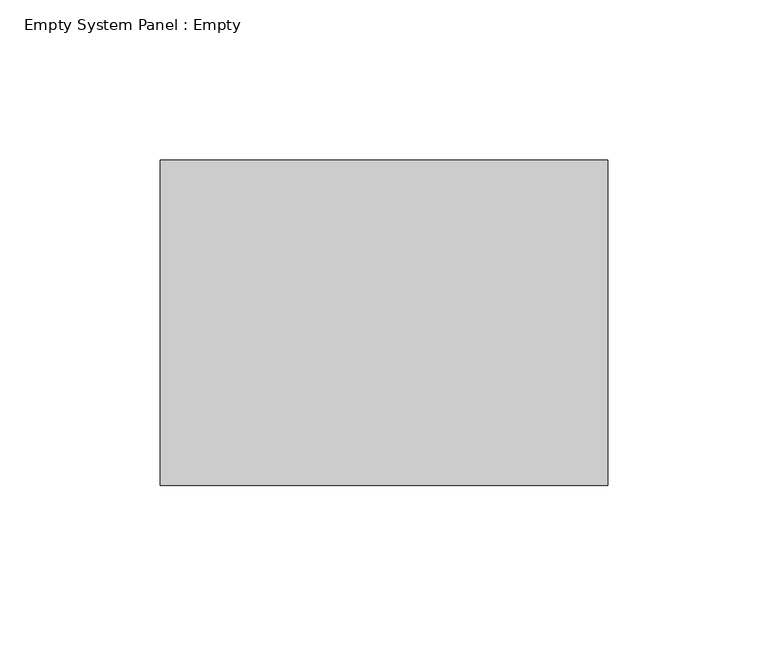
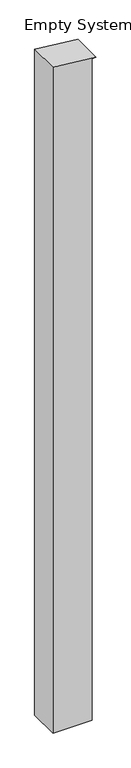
"""IFC4 building model written with IfcOpenShell, lengths in millimetres: plate geometry, Empty System Panel : Empty."""

import ifcopenshell
import ifcopenshell.guid

model = None  # the IFC model being written
_history = None  # IfcOwnerHistory: only IFC2X3 demands one
_inside = {}  # id of a spatial element -> (the spatial element, [elements in it])
_under = {}  # id of a project, library or spatial element -> (it, [spatial elements below it])
_declared = {}  # id of a project -> (the project, [libraries it declares])
_typed = {}  # id of a type object -> (the type object, [elements of that type])
_made_of = {}  # id of a material, layer set ... -> (it, [elements and type objects made of it])


def new_model(schema):
    """Start an empty IFC model of exactly this schema.

    Asked for "IFC4X3", IfcOpenShell would pick the latest addendum, in which some entities
    have other attributes; the version numbers below select the first issue.
    IFC2X3 requires an IfcOwnerHistory on every rooted entity: one is made here for all.
    """
    global model, _history
    if schema == "IFC4X3":
        model = ifcopenshell.file(schema_version=(4, 3, 0, 0))
    else:
        model = ifcopenshell.file(schema=schema)
    _inside.clear()
    _under.clear()
    _declared.clear()
    _typed.clear()
    _made_of.clear()
    _history = None
    if model.schema == "IFC2X3":
        org = make("IfcOrganization", Name="unknown")
        user = make(
            "IfcPersonAndOrganization",
            ThePerson=make("IfcPerson", FamilyName="unknown"),
            TheOrganization=org,
        )
        app = make(
            "IfcApplication",
            ApplicationDeveloper=org,
            Version="unknown",
            ApplicationFullName="unknown",
            ApplicationIdentifier="unknown",
        )
        _history = make(
            "IfcOwnerHistory",
            OwningUser=user,
            OwningApplication=app,
            ChangeAction="ADDED",
            CreationDate=0,
        )
    return model


def make(cls, **values):
    """One entity of the class cls with the attributes given. An attribute that is None is left unset."""
    return model.create_entity(
        cls, **{name: value for name, value in values.items() if value is not None}
    )


def rooted(cls, **values):
    """An entity with a GlobalId (a new one), such as an element, a storey or a relation."""
    return make(cls, GlobalId=ifcopenshell.guid.new(), OwnerHistory=_history, **values)


def si_unit(unit_type, name, prefix=None):
    """IfcSIUnit, for example si_unit("LENGTHUNIT", "METRE", prefix="MILLI")."""
    return make("IfcSIUnit", UnitType=unit_type, Prefix=prefix, Name=name)


def assignment(units):
    """IfcUnitAssignment: the units of a project."""
    return None if units is None else make("IfcUnitAssignment", Units=units)


def point(xyz):
    """IfcCartesianPoint."""
    return None if xyz is None else make("IfcCartesianPoint", Coordinates=xyz)


def direction(xyz):
    """IfcDirection."""
    return None if xyz is None else make("IfcDirection", DirectionRatios=xyz)


def frame(location, z_axis=None, x_axis=None):
    """IfcAxis2Placement3D, a coordinate frame: its origin and axes. An axis left out is left unset."""
    return make(
        "IfcAxis2Placement3D",
        Location=point(location),
        Axis=direction(z_axis),
        RefDirection=direction(x_axis),
    )


def origin():
    """The frame at (0, 0, 0) with its axes left unset."""
    return frame((0.0, 0.0, 0.0))


def place(relative_to, where):
    """IfcLocalPlacement: puts the frame where relative to a parent placement (None: the world)."""
    return make(
        "IfcLocalPlacement", PlacementRelTo=relative_to, RelativePlacement=where
    )


def context(
    kind, dimensions, precision=None, world=None, true_north=None, identifier=None
):
    """IfcGeometricRepresentationContext, for example the 3D "Model" context."""
    return make(
        "IfcGeometricRepresentationContext",
        ContextIdentifier=identifier,
        ContextType=kind,
        CoordinateSpaceDimension=dimensions,
        Precision=precision,
        WorldCoordinateSystem=world,
        TrueNorth=true_north,
    )


def project(units=None, contexts=None):
    """IfcProject with its units and contexts."""
    return rooted(
        "IfcProject",
        Name="project",
        RepresentationContexts=contexts,
        UnitsInContext=assignment(units),
    )


def spatial(cls, under=None, at=None, **own):
    """A site, building, storey or space (cls), placed at a placement, below another one or the project."""
    s = rooted(cls, ObjectPlacement=at, **own)
    if under is not None:
        _under.setdefault(under.id(), (under, []))[1].append(s)
    return s


def polyline(points):
    """IfcPolyline through the points."""
    return make("IfcPolyline", Points=[point(p) for p in points])


def outline(outer, holes=None, kind="AREA"):
    """IfcArbitraryClosedProfileDef: a profile drawn as a closed curve; with holes, ...WithVoids."""
    if holes is None:
        return make("IfcArbitraryClosedProfileDef", ProfileType=kind, OuterCurve=outer)
    return make(
        "IfcArbitraryProfileDefWithVoids",
        ProfileType=kind,
        OuterCurve=outer,
        InnerCurves=holes,
    )


def extrude(swept, where, along, depth):
    """IfcExtrudedAreaSolid: the profile swept, set in the frame where, extruded along a direction by depth."""
    return make(
        "IfcExtrudedAreaSolid",
        SweptArea=swept,
        Position=where,
        ExtrudedDirection=direction(along),
        Depth=depth,
    )


def shape(context_of_items, identifier, shape_type, items):
    """IfcShapeRepresentation: the items that make up one representation, for example the "Body"."""
    return make(
        "IfcShapeRepresentation",
        ContextOfItems=context_of_items,
        RepresentationIdentifier=identifier,
        RepresentationType=shape_type,
        Items=items,
    )


def source(mapping_origin, context_of_items, identifier, shape_type, items):
    """IfcRepresentationMap: a shape defined once, which mapped items show again and again."""
    return make(
        "IfcRepresentationMap",
        MappingOrigin=mapping_origin,
        MappedRepresentation=shape(context_of_items, identifier, shape_type, items),
    )


def transform(
    local_origin,
    x_axis=None,
    y_axis=None,
    z_axis=None,
    scale=None,
    scale2=None,
    scale3=None,
    uniform=True,
):
    """IfcCartesianTransformationOperator3D, or its non-uniform kind. x_axis, y_axis, z_axis: its Axis1, 2, 3."""
    if uniform:
        return make(
            "IfcCartesianTransformationOperator3D",
            Axis1=direction(x_axis),
            Axis2=direction(y_axis),
            LocalOrigin=point(local_origin),
            Scale=scale,
            Axis3=direction(z_axis),
        )
    return make(
        "IfcCartesianTransformationOperator3DnonUniform",
        Axis1=direction(x_axis),
        Axis2=direction(y_axis),
        LocalOrigin=point(local_origin),
        Scale=scale,
        Axis3=direction(z_axis),
        Scale2=scale2,
        Scale3=scale3,
    )


def mapped(mapping_source, mapping_target):
    """IfcMappedItem: shows the shape of a source again, moved by a transform."""
    return make(
        "IfcMappedItem", MappingSource=mapping_source, MappingTarget=mapping_target
    )


def made_of(thing, what):
    """Note that an element or type object is made of a material, layer set ...; save() writes the relation."""
    if what is not None:
        _made_of.setdefault(what.id(), (what, []))[1].append(thing)
    return thing


def element(
    cls,
    number,
    at=None,
    inside=None,
    cuts=None,
    type_object=None,
    material=None,
    context=None,
    identifier="Body",
    shape_type=None,
    held_by="IfcProductDefinitionShape",
    body=None,
    shapes=None,
    **own,
):
    """One element of the class cls, such as IfcWall. Its Tag is "e" and its number.

    at: its placement. inside: the storey or other place that contains it. cuts: it is an
    opening in that element (IfcRelVoidsElement). A single representation is given by context,
    identifier, shape_type and body (its items); several are given by shapes. held_by: the class
    of the entity that holds the representations. save() writes the other relations.
    """
    e = rooted(cls, Tag="e%d" % number, ObjectPlacement=at, **own)
    if body is not None:
        shapes = [shape(context, identifier, shape_type, body)]
    if shapes is not None:
        e.Representation = make(held_by, Representations=shapes)
    if inside is not None:
        _inside.setdefault(inside.id(), (inside, []))[1].append(e)
    if cuts is not None:
        rooted(
            "IfcRelVoidsElement", RelatingBuildingElement=cuts, RelatedOpeningElement=e
        )
    if type_object is not None:
        _typed.setdefault(type_object.id(), (type_object, []))[1].append(e)
    return made_of(e, material)


def aggregate(whole, parts):
    """IfcRelAggregates: a whole, such as a stair, and the parts it consists of."""
    return rooted("IfcRelAggregates", RelatingObject=whole, RelatedObjects=parts)


def save(model, path):
    """Write the relations noted so far, then the file.

    IfcRelAggregates (storeys below a building ...), IfcRelContainedInSpatialStructure (elements
    in a storey), IfcRelDefinesByType, IfcRelAssociatesMaterial and IfcRelDeclares: one each for
    every whole, place, type object, material and project.
    """
    for whole, parts in _under.values():
        aggregate(whole, parts)
    for where, things in _inside.values():
        rooted(
            "IfcRelContainedInSpatialStructure",
            RelatedElements=things,
            RelatingStructure=where,
        )
    for kind, things in _typed.values():
        rooted("IfcRelDefinesByType", RelatedObjects=things, RelatingType=kind)
    for what, things in _made_of.values():
        rooted("IfcRelAssociatesMaterial", RelatedObjects=things, RelatingMaterial=what)
    for by, libraries in _declared.values():
        rooted("IfcRelDeclares", RelatingContext=by, RelatedDefinitions=libraries)
    model.write(path)


def empty_system_panel_empty_6273ba73(model_context):
    return source(origin(), model_context, "Body", "SweptSolid", [
        extrude(outline(polyline([(0.0, -69.85), (0.0, 57.15), (2264.0781603, 57.15), (2264.0781603, 69.85), (2279.7033503, -69.85), (0.0, -69.85)])), frame((0.0, -50.8, 0.0), z_axis=(0.0, 1.0, 0.0), x_axis=(0.0, 0.0, 1.0)), (0.0, 0.0, 1.0), 101.6),
    ])


if __name__ == "__main__":
    model = new_model("IFC4")
    model_context = context("Model", 3, world=origin())
    ifc_project = project(units=[si_unit("LENGTHUNIT", "METRE", prefix="MILLI")], contexts=[model_context])
    site = spatial("IfcSite", under=ifc_project)
    building = spatial("IfcBuilding", under=site)
    placement = place(None, origin())
    empty_system_panel_empty_shape = empty_system_panel_empty_6273ba73(model_context)
    element("IfcPlate", 1, ObjectType="Empty System Panel : Empty", at=placement, inside=building, context=model_context, shape_type="MappedRepresentation", body=[
        mapped(empty_system_panel_empty_shape, transform((0.0, 0.0, 0.0), x_axis=(1.0, 0.0, 0.0), y_axis=(0.0, 1.0, 0.0), z_axis=(0.0, 0.0, 1.0))),
    ])
    save(model, "model.ifc")
